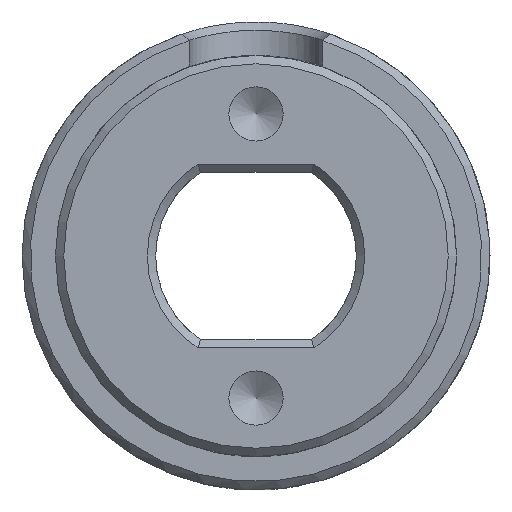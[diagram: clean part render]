
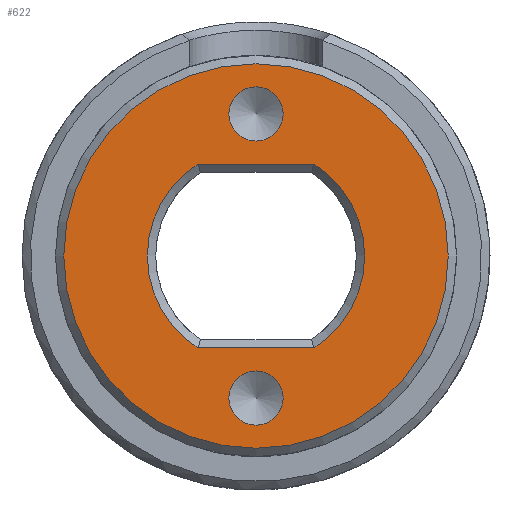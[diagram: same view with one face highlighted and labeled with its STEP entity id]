
A CAD part, front view. The second image highlights one B-rep face of the part: STEP entity #622.
In plain terms, the highlighted planar face has unit normal (0, -1, 0).
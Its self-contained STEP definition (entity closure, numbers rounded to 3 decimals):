
#20=FACE_BOUND('',#134,.T.);
#21=FACE_BOUND('',#135,.T.);
#22=FACE_BOUND('',#136,.T.);
#33=PLANE('',#697);
#94=FACE_OUTER_BOUND('',#133,.T.);
#133=EDGE_LOOP('',(#542));
#134=EDGE_LOOP('',(#543));
#135=EDGE_LOOP('',(#544));
#136=EDGE_LOOP('',(#545,#546,#547,#548));
#174=LINE('',#1377,#215);
#176=LINE('',#1395,#217);
#215=VECTOR('',#818,10.);
#217=VECTOR('',#828,10.);
#229=CIRCLE('',#648,0.812);
#231=CIRCLE('',#652,0.812);
#247=CIRCLE('',#685,3.25);
#251=CIRCLE('',#691,3.25);
#255=CIRCLE('',#698,5.75);
#261=VERTEX_POINT('',#890);
#264=VERTEX_POINT('',#899);
#301=VERTEX_POINT('',#1371);
#302=VERTEX_POINT('',#1376);
#303=VERTEX_POINT('',#1383);
#306=VERTEX_POINT('',#1394);
#313=VERTEX_POINT('',#1422);
#318=EDGE_CURVE('',#261,#261,#229,.T.);
#322=EDGE_CURVE('',#264,#264,#231,.T.);
#378=EDGE_CURVE('',#301,#302,#174,.T.);
#380=EDGE_CURVE('',#302,#303,#247,.T.);
#384=EDGE_CURVE('',#303,#306,#176,.T.);
#388=EDGE_CURVE('',#306,#301,#251,.T.);
#398=EDGE_CURVE('',#313,#313,#255,.T.);
#542=ORIENTED_EDGE('',*,*,#398,.F.);
#543=ORIENTED_EDGE('',*,*,#318,.T.);
#544=ORIENTED_EDGE('',*,*,#322,.T.);
#545=ORIENTED_EDGE('',*,*,#378,.F.);
#546=ORIENTED_EDGE('',*,*,#388,.F.);
#547=ORIENTED_EDGE('',*,*,#384,.F.);
#548=ORIENTED_EDGE('',*,*,#380,.F.);
#622=ADVANCED_FACE('',(#94,#20,#21,#22),#33,.T.);
#648=AXIS2_PLACEMENT_3D('',#891,#719,#720);
#652=AXIS2_PLACEMENT_3D('',#900,#729,#730);
#685=AXIS2_PLACEMENT_3D('',#1384,#821,#822);
#691=AXIS2_PLACEMENT_3D('',#1404,#835,#836);
#697=AXIS2_PLACEMENT_3D('',#1421,#853,#854);
#698=AXIS2_PLACEMENT_3D('',#1423,#855,#856);
#719=DIRECTION('center_axis',(0.,1.,0.));
#720=DIRECTION('ref_axis',(0.,0.,-1.));
#729=DIRECTION('center_axis',(0.,1.,0.));
#730=DIRECTION('ref_axis',(0.,0.,-1.));
#818=DIRECTION('',(1.,0.,0.));
#821=DIRECTION('center_axis',(0.,-1.,0.));
#822=DIRECTION('ref_axis',(1.,0.,0.));
#828=DIRECTION('',(-1.,0.,0.));
#835=DIRECTION('center_axis',(0.,-1.,0.));
#836=DIRECTION('ref_axis',(-1.,0.,0.));
#853=DIRECTION('center_axis',(0.,-1.,0.));
#854=DIRECTION('ref_axis',(0.,0.,-1.));
#855=DIRECTION('center_axis',(0.,1.,0.));
#856=DIRECTION('ref_axis',(1.,0.,0.));
#890=CARTESIAN_POINT('',(0.,-29.,-3.439));
#891=CARTESIAN_POINT('Origin',(0.,-29.,
-4.25));
#899=CARTESIAN_POINT('',(0.,-29.,5.062));
#900=CARTESIAN_POINT('Origin',(0.,-29.,4.25));
#1371=CARTESIAN_POINT('',(-1.732,-29.,-2.75));
#1376=CARTESIAN_POINT('',(1.732,-29.,-2.75));
#1377=CARTESIAN_POINT('',(0.829,-29.,-2.75));
#1383=CARTESIAN_POINT('',(1.732,-29.,2.75));
#1384=CARTESIAN_POINT('Origin',(0.,-29.,
0.));
#1394=CARTESIAN_POINT('',(-1.732,-29.,2.75));
#1395=CARTESIAN_POINT('',(-0.829,-29.,2.75));
#1404=CARTESIAN_POINT('Origin',(0.,-29.,
0.));
#1421=CARTESIAN_POINT('Origin',(0.,-29.,0.));
#1422=CARTESIAN_POINT('',(-5.75,-29.,0.));
#1423=CARTESIAN_POINT('Origin',(0.,-29.,
0.));
